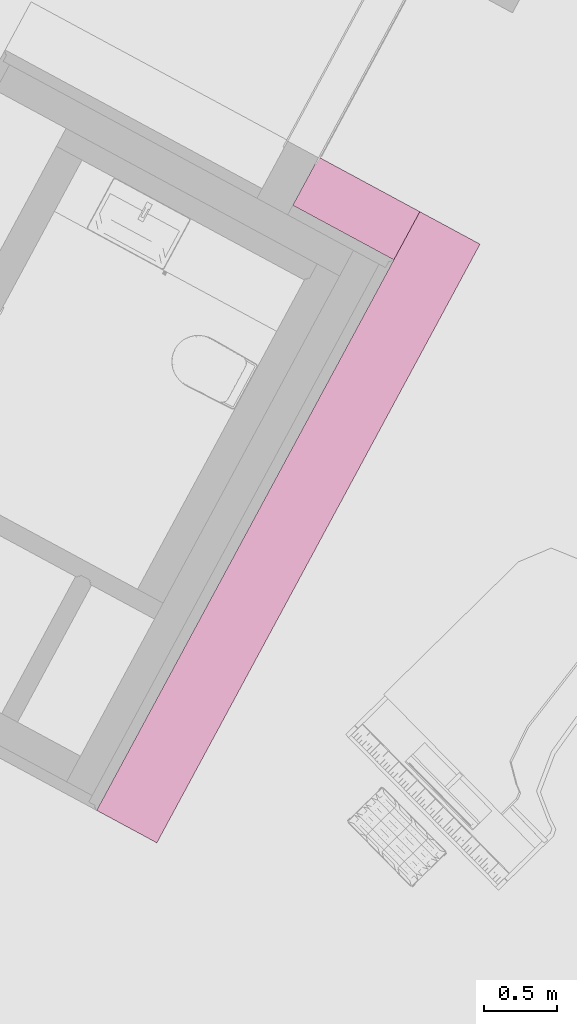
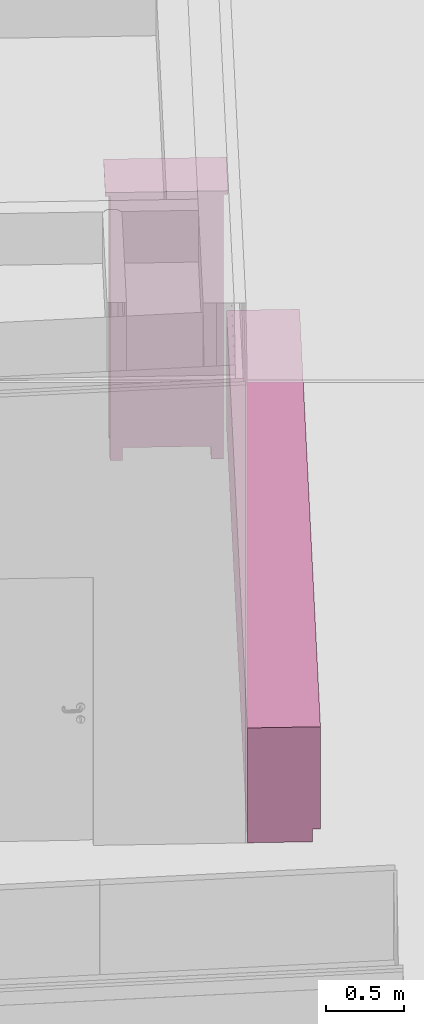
# One storey, part 37 of 52: 2 furnishings.
"""IFC2X3 building model written with IfcOpenShell, lengths in metres."""

from ifc_helpers import new_model, entity, si_unit, converted_unit, derived_unit, money_unit, direction, frame, origin_with_axes, place, context, subcontext, project, spatial, faceted_brep, type_object, element, save


model = new_model("IFC2X3")

# Units and contexts
model_context = context("Model", 3, precision=1e-05, world=origin_with_axes(), true_north=direction((0.0, 1.0)))
body_context = subcontext(model_context, "Body", "Model", "MODEL_VIEW")
ifc_project = project(units=[si_unit("LENGTHUNIT", "METRE"), si_unit("AREAUNIT", "SQUARE_METRE"), si_unit("VOLUMEUNIT", "CUBIC_METRE"), converted_unit("PLANEANGLEUNIT", "DEGREE", entity("IfcPlaneAngleMeasure", 0.0174532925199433), si_unit("PLANEANGLEUNIT", "RADIAN"), dimensions=[0, 0, 0, 0, 0, 0, 0]), money_unit("EUR"), converted_unit("TIMEUNIT", "Year", entity("IfcTimeMeasure", 31556926.0), si_unit("TIMEUNIT", "SECOND"), dimensions=[0, 0, 1, 0, 0, 0, 0]), si_unit("MASSUNIT", "GRAM", prefix="KILO"), si_unit("THERMODYNAMICTEMPERATUREUNIT", "DEGREE_CELSIUS"), si_unit("LUMINOUSINTENSITYUNIT", "LUMEN"), si_unit("ENERGYUNIT", "JOULE", prefix="MEGA"), derived_unit("THERMALCONDUCTANCEUNIT", [(si_unit("POWERUNIT", "WATT"), 1), (si_unit("LENGTHUNIT", "METRE"), -1), (si_unit("THERMODYNAMICTEMPERATUREUNIT", "KELVIN"), -1)]), derived_unit("SPECIFICHEATCAPACITYUNIT", [(si_unit("ENERGYUNIT", "JOULE"), 1), (si_unit("MASSUNIT", "GRAM", prefix="KILO"), -1), (si_unit("THERMODYNAMICTEMPERATUREUNIT", "KELVIN"), -1)]), derived_unit("MASSDENSITYUNIT", [(si_unit("MASSUNIT", "GRAM", prefix="KILO"), 1), (si_unit("VOLUMEUNIT", "CUBIC_METRE"), -1)])], contexts=[model_context])

# Site, building, storey
site_placement = place(None, frame((-3.949935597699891, 1.740105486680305, 0.0), z_axis=(0.0, 0.0, 1.0), x_axis=(0.8799804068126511, -0.475009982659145, 0.0)))
site = spatial("IfcSite", under=ifc_project, at=site_placement, Name="Gelände", CompositionType="ELEMENT")
building_placement = place(site_placement, origin_with_axes())
building = spatial("IfcBuilding", under=site, at=building_placement, Name="Gebäude", CompositionType="ELEMENT")
storey_placement = place(building_placement, origin_with_axes())
storey = spatial("IfcBuildingStorey", under=building, at=storey_placement, Name="Erdgeschoss", CompositionType="ELEMENT", Elevation=0.0)

# Furnishings
furnishing_element_type_1 = type_object("IfcFurnishingElementType", Name="Konzeptküche 26")
furnishing_1_placement = place(storey_placement, frame((18.19651572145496, 6.560813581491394, 0.0), z_axis=(0.0, 0.0, 1.0), x_axis=(0.0, -1.0, 0.0)))
element("IfcFurnishingElement", 1, at=furnishing_1_placement, inside=storey, type_object=furnishing_element_type_1, Name="Küche-001", context=body_context, shape_type="Brep", body=[
    faceted_brep([(-0.818028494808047, -1.689671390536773e-05, 0.0), (3.857330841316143, 3.284217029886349e-06, 0.0), (3.857330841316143, 3.284217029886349e-06, 0.1), (-0.818028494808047, -1.689671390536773e-05, 0.1), (-0.8180303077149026, 0.419983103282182, 0.0), (3.857329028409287, 0.4200032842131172, 0.0), (3.857329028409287, 0.4200032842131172, 0.1), (-0.8180303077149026, 0.419983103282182, 0.1)], [[[0, 1, 2, 3]], [[0, 4, 5, 1]], [[1, 5, 6, 2]], [[3, 2, 6, 7]], [[4, 0, 3, 7]], [[5, 4, 7, 6]]]),
    faceted_brep([(-0.818028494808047, -1.689671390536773e-05, 0.86), (3.857330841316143, 3.284217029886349e-06, 0.86), (3.857330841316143, 3.284217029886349e-06, 0.9), (-0.818028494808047, -1.689671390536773e-05, 0.9), (-0.8180305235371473, 0.4699831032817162, 0.86), (3.857328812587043, 0.4700032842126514, 0.86), (3.857328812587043, 0.4700032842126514, 0.9), (-0.8180305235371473, 0.4699831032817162, 0.9)], [[[0, 1, 2, 3]], [[0, 4, 5, 1]], [[1, 5, 6, 2]], [[3, 2, 6, 7]], [[4, 0, 3, 7]], [[5, 4, 7, 6]]]),
    faceted_brep([(-0.818028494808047, -1.689671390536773e-05, 0.1), (3.857330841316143, 3.284217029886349e-06, 0.1), (3.857330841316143, 3.284217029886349e-06, 0.86), (-0.818028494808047, -1.689671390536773e-05, 0.86), (-0.8180305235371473, 0.4699831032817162, 0.1), (3.857328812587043, 0.4700032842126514, 0.1), (3.857328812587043, 0.4700032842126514, 0.86), (-0.8180305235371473, 0.4699831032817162, 0.86)], [[[0, 1, 2, 3]], [[0, 4, 5, 1]], [[1, 5, 6, 2]], [[3, 2, 6, 7]], [[4, 0, 3, 7]], [[5, 4, 7, 6]]]),
])
furnishing_element_type_2 = type_object("IfcFurnishingElementType", Name="Kleiderschrank 22")
furnishing_2_placement = place(storey_placement, frame((18.19650044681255, 7.378842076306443, 0.0), z_axis=(0.0, 0.0, 1.0), x_axis=(-1.0, 0.0, 0.0)))
element("IfcFurnishingElement", 2, at=furnishing_2_placement, inside=storey, type_object=furnishing_element_type_2, Name="Objekt-0067", context=body_context, shape_type="Brep", body=[
    faceted_brep([(0.05000000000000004, 0.3757887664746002, 0.12), (0.05000000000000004, 0.3557887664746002, 0.12), (0.05000000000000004, 0.3557887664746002, 2.05), (0.05000000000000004, 0.3757887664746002, 2.05), (0.7390121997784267, 0.3757887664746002, 0.12), (0.7390121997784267, 0.3557887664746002, 0.12), (0.7390121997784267, 0.3557887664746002, 2.05), (0.7390121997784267, 0.3757887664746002, 2.05)], [[[0, 1, 2, 3]], [[0, 4, 5, 1]], [[1, 5, 6, 2]], [[3, 2, 6, 7]], [[4, 0, 3, 7]], [[5, 4, 7, 6]]]),
    faceted_brep([(0.7590121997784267, 0.05000000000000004, 0.1), (0.7390121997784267, 0.05000000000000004, 0.1), (0.7390121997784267, 0.3757887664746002, 0.1), (0.7590121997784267, 0.3757887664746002, 0.1), (0.7590121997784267, 0.05000000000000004, 2.07), (0.7390121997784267, 0.05000000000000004, 2.07), (0.7390121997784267, 0.3757887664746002, 2.07), (0.7590121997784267, 0.3757887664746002, 2.07)], [[[0, 1, 2, 3]], [[1, 0, 4, 5]], [[2, 1, 5, 6]], [[3, 2, 6, 7]], [[0, 3, 7, 4]], [[5, 4, 7, 6]]]),
    faceted_brep([(0.05000000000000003, 0.05000000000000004, 0.1), (0.03000000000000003, 0.05000000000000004, 0.1), (0.03000000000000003, 0.3757887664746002, 0.1), (0.05000000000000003, 0.3757887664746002, 0.1), (0.05000000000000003, 0.05000000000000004, 2.07), (0.03000000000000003, 0.05000000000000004, 2.07), (0.03000000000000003, 0.3757887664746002, 2.07), (0.05000000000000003, 0.3757887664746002, 2.07)], [[[0, 1, 2, 3]], [[1, 0, 4, 5]], [[2, 1, 5, 6]], [[3, 2, 6, 7]], [[0, 3, 7, 4]], [[5, 4, 7, 6]]]),
    faceted_brep([(0.7390121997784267, 0.05000000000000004, 0.1), (0.05000000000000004, 0.05000000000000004, 0.1), (0.05000000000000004, 0.3757887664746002, 0.1), (0.7390121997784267, 0.3757887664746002, 0.1), (0.7390121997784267, 0.05000000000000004, 0.12), (0.05000000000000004, 0.05000000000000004, 0.12), (0.05000000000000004, 0.3757887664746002, 0.12), (0.7390121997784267, 0.3757887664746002, 0.12)], [[[0, 1, 2, 3]], [[1, 0, 4, 5]], [[2, 1, 5, 6]], [[3, 2, 6, 7]], [[0, 3, 7, 4]], [[5, 4, 7, 6]]]),
    faceted_brep([(0.7390121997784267, 0.05000000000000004, 2.05), (0.05000000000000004, 0.05000000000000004, 2.05), (0.05000000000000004, 0.3757887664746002, 2.05), (0.7390121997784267, 0.3757887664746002, 2.05), (0.7390121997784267, 0.05000000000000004, 2.07), (0.05000000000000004, 0.05000000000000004, 2.07), (0.05000000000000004, 0.3757887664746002, 2.07), (0.7390121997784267, 0.3757887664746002, 2.07)], [[[0, 1, 2, 3]], [[1, 0, 4, 5]], [[2, 1, 5, 6]], [[3, 2, 6, 7]], [[0, 3, 7, 4]], [[5, 4, 7, 6]]]),
    faceted_brep([(0.7890121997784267, 0.3757887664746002, 2.07), (0.7890121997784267, 0.3757887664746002, 2.1), (0.7890121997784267, 0.0, 2.1), (0.7890121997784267, 0.0, 2.07), (0.0, 0.3757887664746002, 2.07), (0.0, 0.3757887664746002, 2.1), (0.0, 0.0, 2.1), (0.0, 0.0, 2.07)], [[[0, 1, 2, 3]], [[4, 5, 1, 0]], [[1, 5, 6, 2]], [[3, 2, 6, 7]], [[0, 3, 7, 4]], [[7, 6, 5, 4]]]),
    faceted_brep([(0.11, 0.2957887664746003, 0.0), (0.11, 0.3757887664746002, 0.0), (0.11, 0.3757887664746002, 0.1), (0.11, 0.2957887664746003, 0.1), (0.03000000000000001, 0.2957887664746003, 0.0), (0.03000000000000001, 0.3757887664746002, 0.0), (0.03000000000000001, 0.3757887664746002, 0.1), (0.03000000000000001, 0.2957887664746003, 0.1)], [[[0, 1, 2, 3]], [[0, 4, 5, 1]], [[1, 5, 6, 2]], [[3, 2, 6, 7]], [[4, 0, 3, 7]], [[5, 4, 7, 6]]]),
    faceted_brep([(0.7590121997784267, 0.2957887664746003, 0.0), (0.7590121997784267, 0.3757887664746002, 0.0), (0.7590121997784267, 0.3757887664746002, 0.1), (0.7590121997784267, 0.2957887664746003, 0.1), (0.6790121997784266, 0.2957887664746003, 0.0), (0.6790121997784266, 0.3757887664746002, 0.0), (0.6790121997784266, 0.3757887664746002, 0.1), (0.6790121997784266, 0.2957887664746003, 0.1)], [[[0, 1, 2, 3]], [[0, 4, 5, 1]], [[1, 5, 6, 2]], [[3, 2, 6, 7]], [[4, 0, 3, 7]], [[5, 4, 7, 6]]]),
    faceted_brep([(0.11, 0.05000000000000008, 0.0), (0.11, 0.1300000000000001, 0.0), (0.11, 0.1300000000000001, 0.1), (0.11, 0.05000000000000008, 0.1), (0.03000000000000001, 0.05000000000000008, 0.0), (0.03000000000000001, 0.1300000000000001, 0.0), (0.03000000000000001, 0.1300000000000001, 0.1), (0.03000000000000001, 0.05000000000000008, 0.1)], [[[0, 1, 2, 3]], [[0, 4, 5, 1]], [[1, 5, 6, 2]], [[3, 2, 6, 7]], [[4, 0, 3, 7]], [[5, 4, 7, 6]]]),
    faceted_brep([(0.7590121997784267, 0.05000000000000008, 0.0), (0.7590121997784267, 0.1300000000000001, 0.0), (0.7590121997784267, 0.1300000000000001, 0.1), (0.7590121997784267, 0.05000000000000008, 0.1), (0.6790121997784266, 0.05000000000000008, 0.0), (0.6790121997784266, 0.1300000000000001, 0.0), (0.6790121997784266, 0.1300000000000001, 0.1), (0.6790121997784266, 0.05000000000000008, 0.1)], [[[0, 1, 2, 3]], [[0, 4, 5, 1]], [[1, 5, 6, 2]], [[3, 2, 6, 7]], [[4, 0, 3, 7]], [[5, 4, 7, 6]]]),
    faceted_brep([(0.04050000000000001, 0.05, 0.1104999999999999), (0.3940060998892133, 0.05, 0.1104999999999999), (0.3940060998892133, 0.03, 0.1104999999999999), (0.04050000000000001, 0.03, 0.1104999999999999), (0.04050000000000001, 0.05000000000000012, 2.0595), (0.3940060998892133, 0.05000000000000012, 2.0595), (0.3940060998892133, 0.03000000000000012, 2.0595), (0.04050000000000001, 0.03000000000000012, 2.0595)], [[[0, 1, 2, 3]], [[0, 4, 5, 1]], [[1, 5, 6, 2]], [[3, 2, 6, 7]], [[4, 0, 3, 7]], [[5, 4, 7, 6]]]),
    faceted_brep([(0.3314323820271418, 0.03, 0.955), (0.3314323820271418, 0.03, 0.965), (0.3435045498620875, 0.03, 0.965), (0.3435045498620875, 0.03, 0.955), (0.3203312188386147, 0.01914952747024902, 0.965), (0.3203312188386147, 0.01914952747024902, 0.955), (0.266680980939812, 0.01914952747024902, 0.965), (0.2555798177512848, 0.03, 0.965), (0.2435076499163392, 0.03, 0.965), (0.2584777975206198, 0.01692943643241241, 0.965), (0.2754711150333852, 0.008772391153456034, 0.965), (0.2935060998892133, 0.006000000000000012, 0.965), (0.3115410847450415, 0.008772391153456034, 0.965), (0.3285344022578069, 0.01692943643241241, 0.965), (0.3073939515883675, 0.01232720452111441, 0.965), (0.2935060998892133, 0.009999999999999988, 0.965), (0.2796182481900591, 0.01232720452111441, 0.965), (0.3285344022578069, 0.01692943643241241, 0.955), (0.3115410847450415, 0.008772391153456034, 0.955), (0.2935060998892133, 0.006000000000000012, 0.955), (0.2754711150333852, 0.008772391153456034, 0.955), (0.2584777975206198, 0.01692943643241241, 0.955), (0.2435076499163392, 0.03, 0.955), (0.2555798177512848, 0.03, 0.955), (0.266680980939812, 0.01914952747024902, 0.955), (0.2796182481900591, 0.01232720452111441, 0.955), (0.2935060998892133, 0.009999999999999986, 0.955), (0.3073939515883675, 0.01232720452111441, 0.955)], [[[0, 1, 2, 3]], [[4, 1, 0, 5]], [[6, 7, 8, 9, 10, 11, 12, 13, 2, 1, 4, 14, 15, 16]], [[13, 17, 3, 2]], [[5, 0, 3, 17, 18, 19, 20, 21, 22, 23, 24, 25, 26, 27]], [[14, 4, 5, 27]], [[7, 6, 24, 23]], [[7, 23, 22, 8]], [[8, 22, 21, 9]], [[9, 21, 20, 10]], [[10, 20, 19, 11]], [[11, 19, 18, 12]], [[12, 18, 17, 13]], [[15, 14, 27, 26]], [[16, 15, 26, 25]], [[6, 16, 25, 24]]]),
    faceted_brep([(0.3960060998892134, 0.05, 0.1104999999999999), (0.7495121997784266, 0.05, 0.1104999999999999), (0.7495121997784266, 0.03, 0.1104999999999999), (0.3960060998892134, 0.03, 0.1104999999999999), (0.3960060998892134, 0.05000000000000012, 2.0595), (0.7495121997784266, 0.05000000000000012, 2.0595), (0.7495121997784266, 0.03000000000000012, 2.0595), (0.3960060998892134, 0.03000000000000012, 2.0595)], [[[0, 1, 2, 3]], [[0, 4, 5, 1]], [[1, 5, 6, 2]], [[3, 2, 6, 7]], [[4, 0, 3, 7]], [[5, 4, 7, 6]]]),
    faceted_brep([(0.5334323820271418, 0.03, 0.955), (0.5334323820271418, 0.03, 0.965), (0.5455045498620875, 0.03, 0.965), (0.5455045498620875, 0.03, 0.955), (0.5223312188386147, 0.01914952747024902, 0.965), (0.5223312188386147, 0.01914952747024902, 0.955), (0.468680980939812, 0.01914952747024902, 0.965), (0.4575798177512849, 0.03, 0.965), (0.4455076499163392, 0.03, 0.965), (0.4604777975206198, 0.01692943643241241, 0.965), (0.4774711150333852, 0.008772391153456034, 0.965), (0.4955060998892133, 0.006000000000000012, 0.965), (0.5135410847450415, 0.008772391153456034, 0.965), (0.5305344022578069, 0.01692943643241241, 0.965), (0.5093939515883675, 0.01232720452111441, 0.965), (0.4955060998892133, 0.009999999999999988, 0.965), (0.4816182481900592, 0.01232720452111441, 0.965), (0.5305344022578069, 0.01692943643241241, 0.955), (0.5135410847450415, 0.008772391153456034, 0.955), (0.4955060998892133, 0.006000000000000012, 0.955), (0.4774711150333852, 0.008772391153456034, 0.955), (0.4604777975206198, 0.01692943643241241, 0.955), (0.4455076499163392, 0.03, 0.955), (0.4575798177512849, 0.03, 0.955), (0.468680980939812, 0.01914952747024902, 0.955), (0.4816182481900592, 0.01232720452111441, 0.955), (0.4955060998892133, 0.009999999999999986, 0.955), (0.5093939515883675, 0.01232720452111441, 0.955)], [[[0, 1, 2, 3]], [[4, 1, 0, 5]], [[6, 7, 8, 9, 10, 11, 12, 13, 2, 1, 4, 14, 15, 16]], [[17, 3, 2, 13]], [[5, 0, 3, 17, 18, 19, 20, 21, 22, 23, 24, 25, 26, 27]], [[14, 4, 5, 27]], [[7, 6, 24, 23]], [[7, 23, 22, 8]], [[22, 21, 9, 8]], [[21, 20, 10, 9]], [[20, 19, 11, 10]], [[19, 18, 12, 11]], [[18, 17, 13, 12]], [[15, 14, 27, 26]], [[16, 15, 26, 25]], [[6, 16, 25, 24]]]),
])

save(model, "model.ifc")
